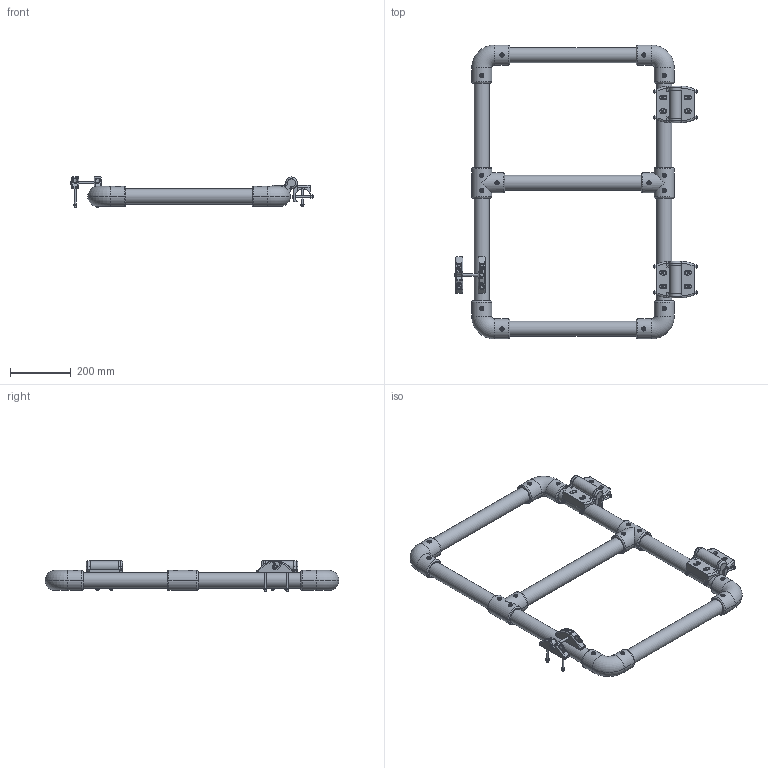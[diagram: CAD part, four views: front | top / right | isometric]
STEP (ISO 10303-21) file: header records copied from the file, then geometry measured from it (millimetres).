
FILE_DESCRIPTION(/* description */ (''),/* implementation_level */ '2;1');
FILE_NAME(/* name */ 'GRP-MHGT-01-Y-RHS_PH01.stp',/* time_stamp */ '2026-03-24T08:35:15+10:00',/* author */ ('CoreyTinney'),/* organization */ (''),/* preprocessor_version */ 'ST-DEVELOPER v20.1',/* originating_system */ 'Autodesk Inventor 2026',/* authorisation */ '');
FILE_SCHEMA (('AUTOMOTIVE_DESIGN { 1 0 10303 214 3 1 1 }'));
Length unit declared in the file: millimetre
Products named in the file (26): GRP-MHGT-01-Y-RHS_PH01; STANDARD GATE BASE SKETCH; MH2-90 DEGREE CONNECTOR - Y; MH2-90 Elbow-Y; MH2-90 elbow; MH3-Wcross Connector_PH01; MHR-M6-304; M6x8 Barrel Nut; M6x50 Soc Head Screw; MH3-W Cross-Y; MH3-Wcross connector 1; TYPG-ST-01; TYPG-TR-01; TYPG-MR-01; TCHDRND2S3-PH01; TCHDRND2S3; TCHDRND2S3 - PART A; TCHDRND2S3 - PART B; T-Latch TL01-PH01; T-Latch TL01; T-Latch TL01 PART A; T-Latch TL01 PART B; T-Latch TL01 PART C; M6 x 65; M6x12; M6 NUT NYLOC
Assembly tree (79 placements, depth 4):
  GRP-MHGT-01-Y-RHS_PH01
    STANDARD GATE BASE SKETCH
    TYPG-ST-01  x2
    MH2-90 DEGREE CONNECTOR - Y  x4
      MH2-90 Elbow-Y
        MH2-90 elbow  x2
      MHR-M6-304
        M6x8 Barrel Nut
        M6x50 Soc Head Screw
    MH3-Wcross Connector_PH01  x2
      MHR-M6-304
        M6x8 Barrel Nut
        M6x50 Soc Head Screw
      MH3-W Cross-Y
        MH3-Wcross connector 1  x2
    TYPG-TR-01  x2
    TYPG-MR-01
    TCHDRND2S3-PH01  x2
      M6x12
      M6 x 65
      M6 NUT NYLOC
      TCHDRND2S3
        TCHDRND2S3 - PART A
        TCHDRND2S3 - PART B
    T-Latch TL01-PH01
      T-Latch TL01
        T-Latch TL01 PART A
        T-Latch TL01 PART B
        T-Latch TL01 PART C
      M6 x 65  x4
      M6x12  x4
      M6 NUT NYLOC  x4
Bounding box: 796.93 x 966 x 100.82 mm (x, y, z)
Volume: 4557160.6 mm3; surface area: 1577950.5 mm2
Topology: 148 solids, 148 shells, 2221 faces, 4818 edges, 3021 vertices
Faces by surface type: plane 1098, cylinder 499, cone 448, torus 106, bspline 56, sphere 14
Full cylindrical faces by diameter (mm): 4.917 x20, 5 x14, 6 x54, 6.4 x36, 7.8 x1, 8 x54, 8.5 x28, 10 x40, 11 x37, 13 x2, 14 x28, 40 x5, 50 x5
Entity records: 22655 total; most frequent: CARTESIAN_POINT 12487, DIRECTION 2078, ORIENTED_EDGE 1808, EDGE_CURVE 904, AXIS2_PLACEMENT_3D 842, VERTEX_POINT 568, EDGE_LOOP 456, LINE 394
